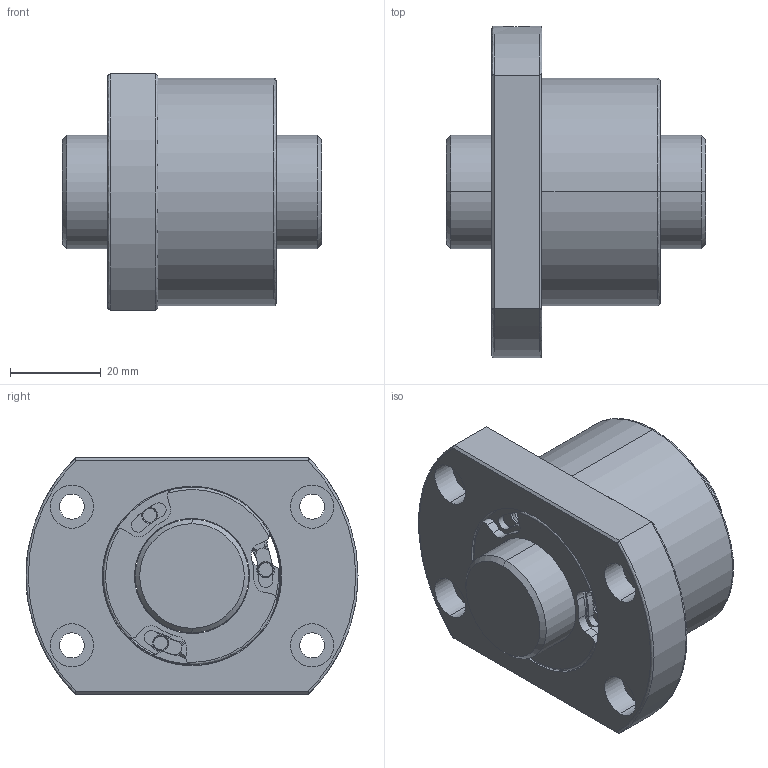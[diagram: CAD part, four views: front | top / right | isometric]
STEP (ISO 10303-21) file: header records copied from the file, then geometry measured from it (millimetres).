
FILE_DESCRIPTION (( 'STEP AP203' ), '1' );
FILE_NAME ('SFVSR02505C1D-C.STEP', '2020-06-17T05:08:13', ( '' ), ( '' ), 'SwSTEP 2.0', 'SolidWorks 2013', '' );
FILE_SCHEMA (( 'CONFIG_CONTROL_DESIGN' ));
Length unit declared in the file: millimetre
Products named in the file (1): SFVSR02505C1D-C
Bounding box: 57 x 73 x 52 mm (x, y, z)
Volume: 91967 mm3; surface area: 24646.3 mm2
Topology: 2 solids, 2 shells, 246 faces, 600 edges, 382 vertices
Faces by surface type: cylinder 136, plane 80, cone 16, bspline 14
Entity records: 8070 total; most frequent: CARTESIAN_POINT 2000, DIRECTION 1378, ORIENTED_EDGE 1200, EDGE_CURVE 600, AXIS2_PLACEMENT_3D 585, VERTEX_POINT 382, CIRCLE 352, EDGE_LOOP 284
